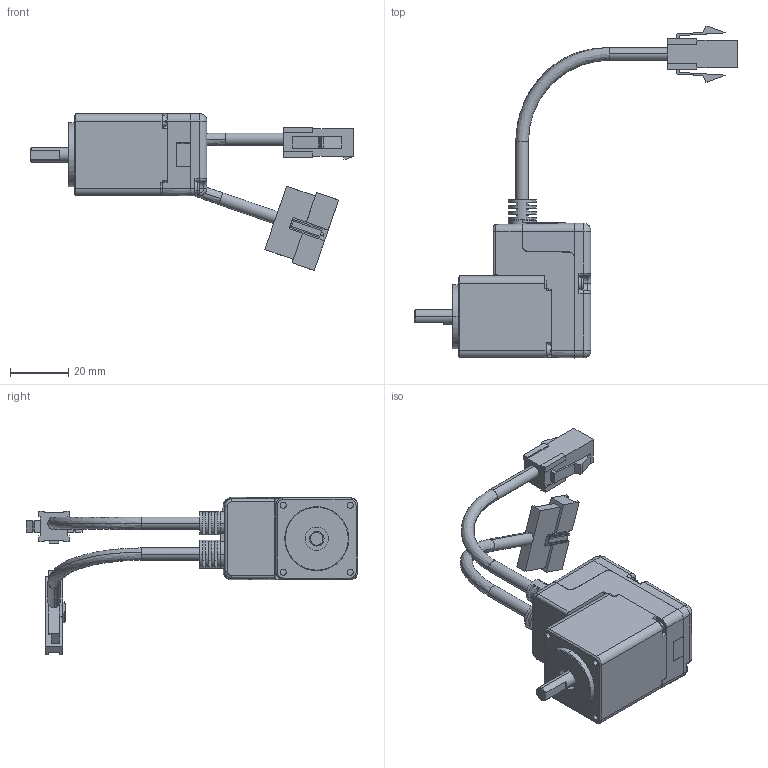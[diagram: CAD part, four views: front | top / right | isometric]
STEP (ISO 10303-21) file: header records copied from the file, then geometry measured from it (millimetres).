
FILE_DESCRIPTION (( 'STEP AP203' ), '1' );
FILE_NAME ('P11-MO-028-12-R00.STEP', '2018-01-17T08:24:18', ( '' ), ( '' ), 'SwSTEP 2.0', 'SolidWorks 2013', '' );
FILE_SCHEMA (( 'CONFIG_CONTROL_DESIGN' ));
Length unit declared in the file: millimetre
Products named in the file (9): pan cross head_ks_KS 1023 PC- M2.6 x 16-N; pan cross head_ks_KS 1023 PC- M2 x 20-N; P11-MO-028-12-R00; M11-MO-028-09-R00; 532530670; M11-EC-028-01-R00; M11-EC-028-02-R00; 28阿 葛磐 啊悼屈 纳捞喉_钎霖; 28阿 浚内歹 啊悼屈 纳捞喉_钎霖
Assembly tree (9 placements, depth 2):
  P11-MO-028-12-R00
    M11-MO-028-09-R00
    532530670
    M11-EC-028-01-R00
    M11-EC-028-02-R00
    28阿 葛磐 啊悼屈 纳捞喉_钎霖
    28阿 浚内歹 啊悼屈 纳捞喉_钎霖
    pan cross head_ks_KS 1023 PC- M2.6 x 16-N  x2
    pan cross head_ks_KS 1023 PC- M2 x 20-N
Bounding box: 111 x 113.99 x 53.94 mm (x, y, z)
Volume: 40625.8 mm3; surface area: 26741.8 mm2
Topology: 9 solids, 9 shells, 999 faces, 2592 edges, 1650 vertices
Faces by surface type: plane 648, cylinder 205, cone 73, bspline 35, torus 20, sphere 18
Entity records: 32461 total; most frequent: CARTESIAN_POINT 7905, ORIENTED_EDGE 4968, DIRECTION 4847, EDGE_CURVE 2484, LINE 1681, VECTOR 1681, VERTEX_POINT 1593, AXIS2_PLACEMENT_3D 1583
